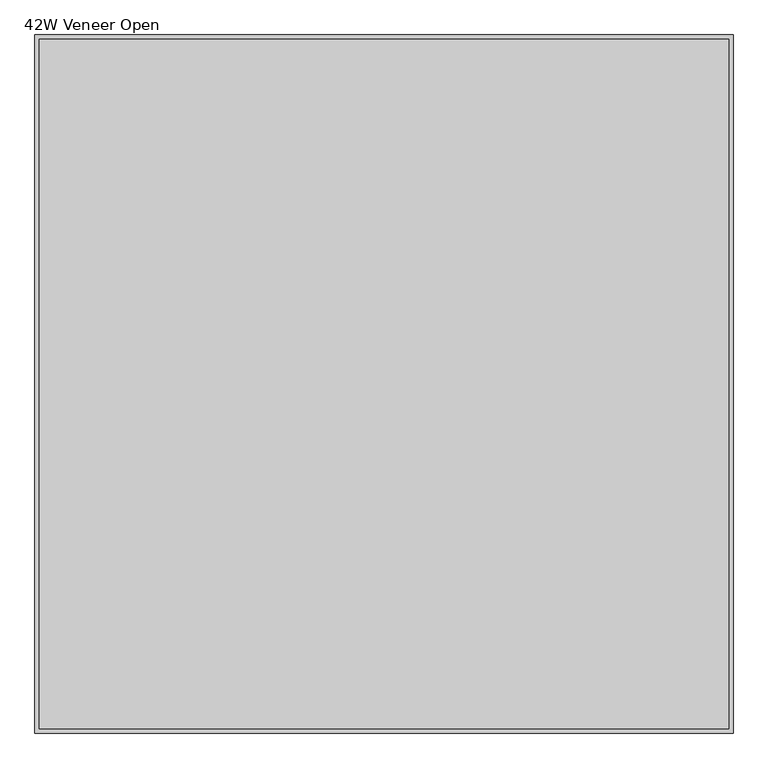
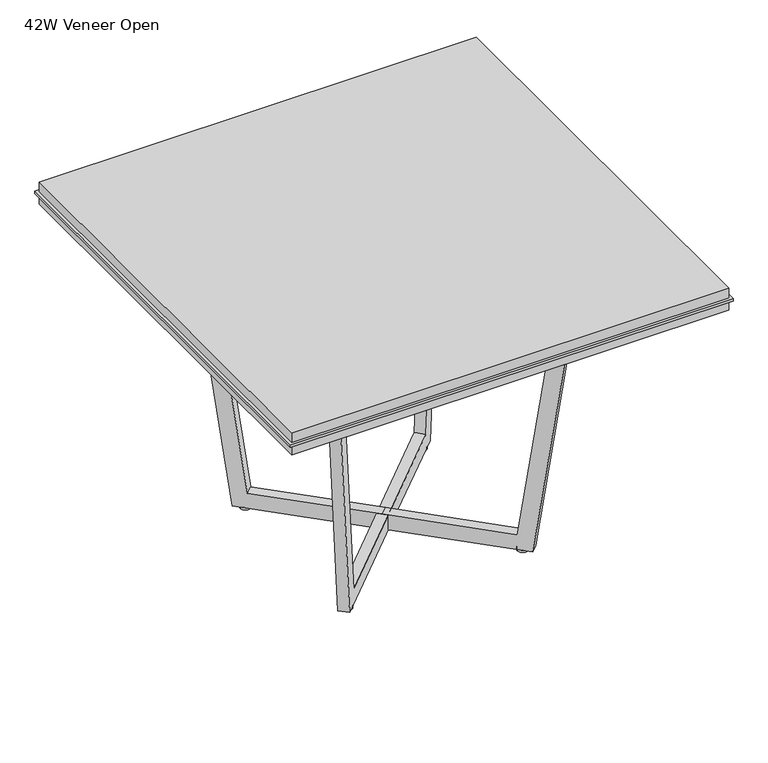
"""IFC4 building model written with IfcOpenShell, lengths in millimetres: furniture geometry, Knoll_Datesweiser_Tables_Meeting_Highline_Square : 42W Veneer Open."""

from ifc_helpers import new_model, si_unit, point, frame, frame_2d, origin, origin_with_axes, place, context, project, spatial, polyline, circle_curve, trimmed, segment, composite_curve, outline, extrude, source, transform, mapped, element, save


def furniture_42w_veneer_open_94f1aecc(model_context):
    return source(origin(), model_context, "Body", "SweptSolid", [
        extrude(outline(polyline([(533.4, 533.4), (533.4, -533.4), (-533.4, -533.4), (-533.4, 533.4), (533.4, 533.4)])), frame((0.0, 0.0, 698.5), z_axis=(0.0, 0.0, 1.0), x_axis=(1.0, 0.0, 0.0)), (0.0, 0.0, 1.0), 25.4),
        extrude(outline(polyline([(533.4, 533.4), (533.4, -533.4), (-533.4, -533.4), (-533.4, 533.4), (533.4, 533.4)])), frame((0.0, 0.0, 730.25), z_axis=(0.0, 0.0, 1.0), x_axis=(1.0, 0.0, 0.0)), (0.0, 0.0, 1.0), 25.4),
        extrude(outline(polyline([(539.75, 539.75), (539.75, -539.75), (-539.75, -539.75), (-539.75, 539.75), (539.75, 539.75)])), frame((0.0, 0.0, 723.9), z_axis=(0.0, 0.0, 1.0), x_axis=(1.0, 0.0, 0.0)), (0.0, 0.0, 1.0), 6.35),
        extrude(outline(composite_curve([segment(trimmed(circle_curve(frame_2d((-214.2640473, -214.2640473)), 12.7), [point((-201.5640473, -214.2640473))], [point((-226.9640473, -214.2640473))], False, "CARTESIAN"), True, "CONTINUOUS"), segment(trimmed(circle_curve(frame_2d((-214.2640473, -214.2640473)), 12.7), [point((-226.9640473, -214.2640473))], [point((-201.5640473, -214.2640473))], False, "CARTESIAN"), True, "CONTINUOUS")], self_intersect=False)), origin_with_axes(), (0.0, 0.0, 1.0), 5.9867797),
        extrude(outline(composite_curve([segment(trimmed(circle_curve(frame_2d((-214.2640473, 214.2640473)), 12.7), [point((-201.5640473, 214.2640473))], [point((-226.9640473, 214.2640473))], False, "CARTESIAN"), True, "CONTINUOUS"), segment(trimmed(circle_curve(frame_2d((-214.2640473, 214.2640473)), 12.7), [point((-226.9640473, 214.2640473))], [point((-201.5640473, 214.2640473))], False, "CARTESIAN"), True, "CONTINUOUS")], self_intersect=False)), origin_with_axes(), (0.0, 0.0, 1.0), 5.9867797),
        extrude(outline(composite_curve([segment(trimmed(circle_curve(frame_2d((214.2640473, -214.2640473)), 12.7), [point((226.9640473, -214.2640473))], [point((201.5640473, -214.2640473))], False, "CARTESIAN"), True, "CONTINUOUS"), segment(trimmed(circle_curve(frame_2d((214.2640473, -214.2640473)), 12.7), [point((201.5640473, -214.2640473))], [point((226.9640473, -214.2640473))], False, "CARTESIAN"), True, "CONTINUOUS")], self_intersect=False)), origin_with_axes(), (0.0, 0.0, 1.0), 5.9867797),
        extrude(outline(composite_curve([segment(trimmed(circle_curve(frame_2d((214.2640473, 214.2640473)), 12.7), [point((226.9640473, 214.2640473))], [point((201.5640473, 214.2640473))], False, "CARTESIAN"), True, "CONTINUOUS"), segment(trimmed(circle_curve(frame_2d((214.2640473, 214.2640473)), 12.7), [point((201.5640473, 214.2640473))], [point((226.9640473, 214.2640473))], False, "CARTESIAN"), True, "CONTINUOUS")], self_intersect=False)), origin_with_axes(), (0.0, 0.0, 1.0), 5.9867797),
        extrude(outline(polyline([(-328.4154116, 0.0), (0.0, 0.0), (96.4293466, -692.6387226), (57.9549435, -692.5888898), (-33.1691487, -38.0570712), (-328.4642085, -37.6745992), (-623.7592682, -37.2921272), (-716.578577, -691.5856987), (-755.0529801, -691.5358658), (-656.8297213, 0.8507388), (-328.4154116, 0.0)])), frame((223.2443137, -241.2048259, 5.9867797), z_axis=(0.7071067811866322, 0.7071067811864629, 0.0), x_axis=(0.7071061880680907, -0.70710618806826, -0.001295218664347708)), (0.0, 0.0, 1.0), 25.4),
        extrude(outline(polyline([(328.4154116, 0.0), (656.8297213, 0.8507388), (755.0529801, -691.5358658), (716.578577, -691.5856987), (623.7592682, -37.2921272), (328.4642085, -37.6745992), (33.1691487, -38.0570712), (-57.9549435, -692.5888898), (-96.4293466, -692.6387226), (0.0, 0.0), (328.4154116, 0.0)])), frame((-223.2443137, -241.2048259, 5.9867797), z_axis=(-0.707106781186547, 0.7071067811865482, 0.0), x_axis=(0.7071061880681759, 0.7071061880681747, 0.001295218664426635)), (0.0, 0.0, 1.0), 25.4),
    ])


if __name__ == "__main__":
    model = new_model("IFC4")
    model_context = context("Model", 3, world=origin())
    ifc_project = project(units=[si_unit("LENGTHUNIT", "METRE", prefix="MILLI")], contexts=[model_context])
    site = spatial("IfcSite", under=ifc_project)
    building = spatial("IfcBuilding", under=site)
    placement = place(None, origin())
    furniture_42w_veneer_open_shape = furniture_42w_veneer_open_94f1aecc(model_context)
    element("IfcFurniture", 1, ObjectType="Knoll_Datesweiser_Tables_Meeting_Highline_Square : 42W Veneer Open", at=placement, inside=building, context=model_context, shape_type="MappedRepresentation", body=[
        mapped(furniture_42w_veneer_open_shape, transform((0.0, 0.0, 0.0), x_axis=(1.0, 0.0, 0.0), y_axis=(0.0, 1.0, 0.0), z_axis=(0.0, 0.0, 1.0))),
    ])
    save(model, "model.ifc")
